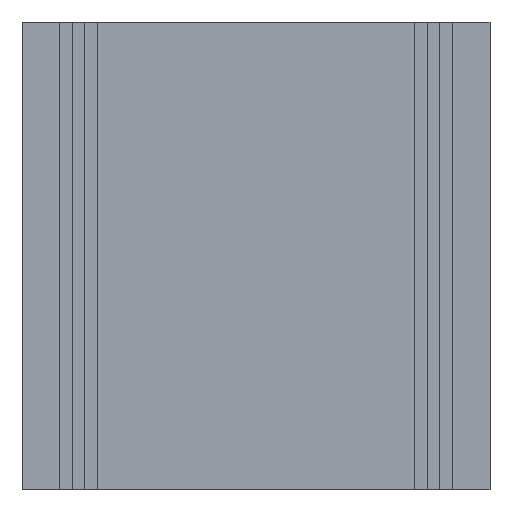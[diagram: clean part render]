
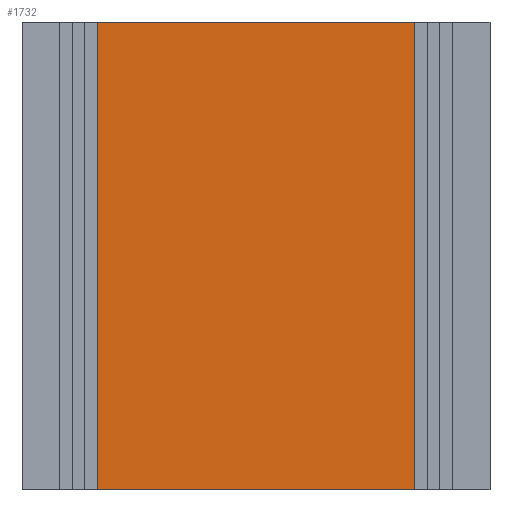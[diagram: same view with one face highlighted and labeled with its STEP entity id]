
A CAD part, top view. The second image highlights one B-rep face of the part: STEP entity #1732.
In plain terms, the highlighted planar face has unit normal (0, 0, 1).
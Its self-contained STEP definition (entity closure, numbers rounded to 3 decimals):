
#125=LINE($,#2899,#233);
#131=LINE($,#2911,#239);
#137=LINE($,#2921,#245);
#138=LINE($,#2922,#246);
#233=VECTOR($,#2310,125.);
#239=VECTOR($,#2320,125.);
#245=VECTOR($,#2330,85.);
#246=VECTOR($,#2331,85.);
#464=FACE_OUTER_BOUND($,#605,.T.);
#605=EDGE_LOOP($,(#1404,#1405,#1406,#1407));
#935=VERTEX_POINT($,#2897);
#936=VERTEX_POINT($,#2898);
#939=VERTEX_POINT($,#2909);
#940=VERTEX_POINT($,#2910);
#1126=EDGE_CURVE($,#935,#936,#125,.T.);
#1132=EDGE_CURVE($,#939,#940,#131,.T.);
#1138=EDGE_CURVE($,#936,#939,#137,.T.);
#1139=EDGE_CURVE($,#940,#935,#138,.T.);
#1404=ORIENTED_EDGE($,*,*,#1132,.F.);
#1405=ORIENTED_EDGE($,*,*,#1138,.F.);
#1406=ORIENTED_EDGE($,*,*,#1126,.F.);
#1407=ORIENTED_EDGE($,*,*,#1139,.F.);
#1658=PLANE($,#1907);
#1732=ADVANCED_FACE($,(#464),#1658,.T.);
#1907=AXIS2_PLACEMENT_3D($,#2920,#2328,#2329);
#2310=DIRECTION($,(0.,-1.,0.));
#2320=DIRECTION($,(0.,1.,0.));
#2328=DIRECTION('center_axis',(0.,0.,
1.));
#2329=DIRECTION('ref_axis',(1.,0.,0.));
#2330=DIRECTION($,(-1.,0.,0.));
#2331=DIRECTION($,(1.,0.,0.));
#2897=CARTESIAN_POINT('',(105.,125.,43.));
#2898=CARTESIAN_POINT('',(105.,0.,43.));
#2899=CARTESIAN_POINT($,(105.,0.,43.));
#2909=CARTESIAN_POINT('',(20.,0.,43.));
#2910=CARTESIAN_POINT('',(20.,125.,43.));
#2911=CARTESIAN_POINT($,(20.,125.,43.));
#2920=CARTESIAN_POINT('Origin',(62.5,62.5,43.));
#2921=CARTESIAN_POINT($,(20.,0.,43.));
#2922=CARTESIAN_POINT($,(105.,125.,43.));
